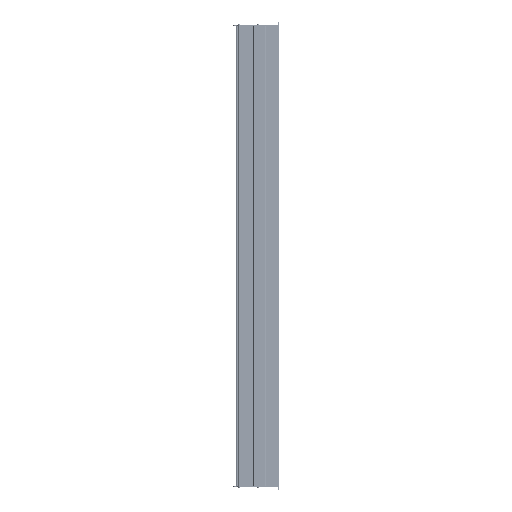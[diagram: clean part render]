
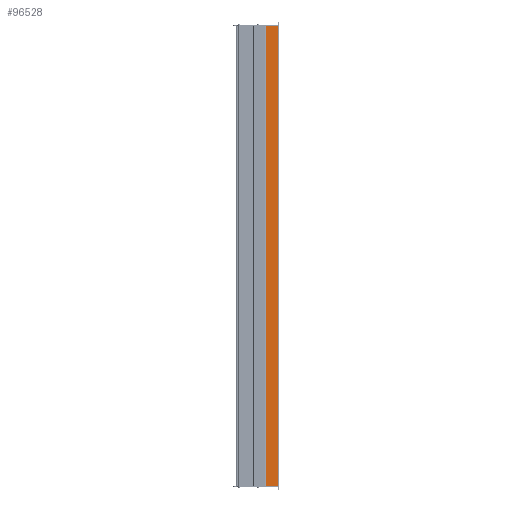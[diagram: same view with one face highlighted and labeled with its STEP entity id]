
A CAD part, left-side view. The second image highlights one B-rep face of the part: STEP entity #96528.
In plain terms, the highlighted planar face has unit normal (-1, 0, 0).
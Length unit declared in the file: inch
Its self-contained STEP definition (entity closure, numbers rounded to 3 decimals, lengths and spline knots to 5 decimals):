
#1871 = EDGE_LOOP ( 'NONE', ( #2854, #17323, #19015, #94766 ) ) ;
#2118 = VERTEX_POINT ( 'NONE', #63709 ) ;
#2854 = ORIENTED_EDGE ( 'NONE', *, *, #54090, .F. ) ;
#4105 = EDGE_CURVE ( 'NONE', #58859, #75163, #24065, .T. ) ;
#6052 = CARTESIAN_POINT ( 'NONE',  ( -1.25984, -3.67323, 0. ) ) ;
#6102 = VECTOR ( 'NONE', #83275, 39.37008 ) ;
#17323 = ORIENTED_EDGE ( 'NONE', *, *, #70009, .F. ) ;
#19015 = ORIENTED_EDGE ( 'NONE', *, *, #83697, .T. ) ;
#20188 = PLANE ( 'NONE',  #46868 ) ;
#20239 = LINE ( 'NONE', #6052, #49440 ) ;
#22213 = CARTESIAN_POINT ( 'NONE',  ( -1.25984, -3.67323, -48.0625 ) ) ;
#24065 = LINE ( 'NONE', #62701, #6102 ) ;
#28391 = CARTESIAN_POINT ( 'NONE',  ( -1.25984, -2.38583, -48.0625 ) ) ;
#37424 = CARTESIAN_POINT ( 'NONE',  ( -1.25984, -3.67323, -48.0625 ) ) ;
#38794 = VECTOR ( 'NONE', #95411, 39.37008 ) ;
#39370 = VERTEX_POINT ( 'NONE', #77430 ) ;
#42743 = DIRECTION ( 'NONE',  ( 0., -1., 0. ) ) ;
#43648 = FACE_OUTER_BOUND ( 'NONE', #1871, .T. ) ;
#46868 = AXIS2_PLACEMENT_3D ( 'NONE', #50028, #73437, #95982 ) ;
#48190 = LINE ( 'NONE', #22213, #69442 ) ;
#49440 = VECTOR ( 'NONE', #42743, 39.37008 ) ;
#50028 = CARTESIAN_POINT ( 'NONE',  ( -1.25984, -3.67323, -48.0625 ) ) ;
#54090 = EDGE_CURVE ( 'NONE', #39370, #75163, #20239, .T. ) ;
#54379 = LINE ( 'NONE', #28391, #38794 ) ;
#58859 = VERTEX_POINT ( 'NONE', #37424 ) ;
#62701 = CARTESIAN_POINT ( 'NONE',  ( -1.25984, -3.67323, -48.0625 ) ) ;
#63709 = CARTESIAN_POINT ( 'NONE',  ( -1.25984, -2.38583, -48.0625 ) ) ;
#69442 = VECTOR ( 'NONE', #80436, 39.37008 ) ;
#70009 = EDGE_CURVE ( 'NONE', #2118, #39370, #54379, .T. ) ;
#71353 = CARTESIAN_POINT ( 'NONE',  ( -1.25984, -3.67323, 0. ) ) ;
#73437 = DIRECTION ( 'NONE',  ( -1., 0., 0. ) ) ;
#75163 = VERTEX_POINT ( 'NONE', #71353 ) ;
#77430 = CARTESIAN_POINT ( 'NONE',  ( -1.25984, -2.38583, 0. ) ) ;
#80436 = DIRECTION ( 'NONE',  ( 0., -1., 0. ) ) ;
#83275 = DIRECTION ( 'NONE',  ( 0., 0., 1. ) ) ;
#83697 = EDGE_CURVE ( 'NONE', #2118, #58859, #48190, .T. ) ;
#94766 = ORIENTED_EDGE ( 'NONE', *, *, #4105, .T. ) ;
#95411 = DIRECTION ( 'NONE',  ( 0., 0., 1. ) ) ;
#95982 = DIRECTION ( 'NONE',  ( 0., 0., 1. ) ) ;
#96528 = ADVANCED_FACE ( 'NONE', ( #43648 ), #20188, .T. ) ;
